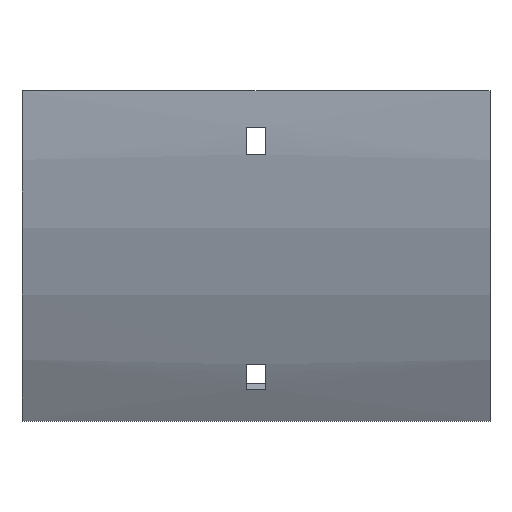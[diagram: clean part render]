
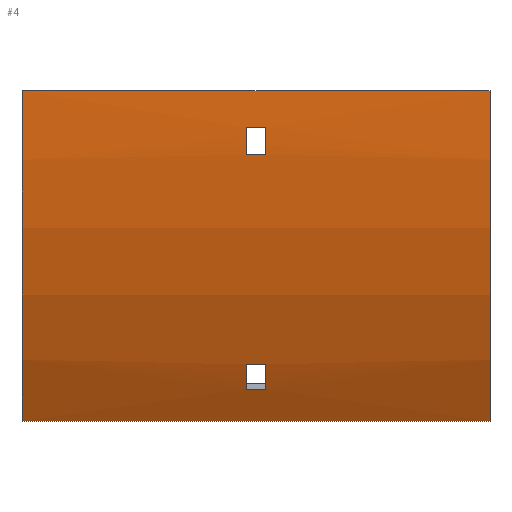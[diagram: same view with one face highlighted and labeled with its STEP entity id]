
A CAD part, front view. The second image highlights one B-rep face of the part: STEP entity #4.
In plain terms, the highlighted cylindrical face has radius 217.5 mm (diameter 435 mm), a partial arc.
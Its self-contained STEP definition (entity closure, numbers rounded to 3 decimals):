
#4 = ADVANCED_FACE ( 'NONE', ( #366, #1395, #237 ), #498, .T. ) ;
#16 = LINE ( 'NONE', #658, #172 ) ;
#43 = DIRECTION ( 'NONE',  ( 0., 0., -1. ) ) ;
#47 = ORIENTED_EDGE ( 'NONE', *, *, #298, .T. ) ;
#112 = ORIENTED_EDGE ( 'NONE', *, *, #941, .T. ) ;
#129 = CARTESIAN_POINT ( 'NONE',  ( 3.25, -116.484, -21. ) ) ;
#131 = ORIENTED_EDGE ( 'NONE', *, *, #1462, .F. ) ;
#154 = DIRECTION ( 'NONE',  ( 1., 0., 0. ) ) ;
#172 = VECTOR ( 'NONE', #1314, 1000. ) ;
#191 = CARTESIAN_POINT ( 'NONE',  ( 77., -117.5, 0. ) ) ;
#203 = VERTEX_POINT ( 'NONE', #1014 ) ;
#230 = CIRCLE ( 'NONE', #1176, 217.5 ) ;
#237 = FACE_BOUND ( 'NONE', #1431, .T. ) ;
#243 = ORIENTED_EDGE ( 'NONE', *, *, #1098, .F. ) ;
#264 = CARTESIAN_POINT ( 'NONE',  ( -3.25, 100., 0. ) ) ;
#298 = EDGE_CURVE ( 'NONE', #1682, #476, #841, .T. ) ;
#299 = DIRECTION ( 'NONE',  ( 0., 0., -1. ) ) ;
#305 = DIRECTION ( 'NONE',  ( 0., 0., 1. ) ) ;
#306 = ORIENTED_EDGE ( 'NONE', *, *, #1586, .F. ) ;
#308 = CARTESIAN_POINT ( 'NONE',  ( 77., 100., 0. ) ) ;
#312 = AXIS2_PLACEMENT_3D ( 'NONE', #1181, #1081, #305 ) ;
#329 = DIRECTION ( 'NONE',  ( 0., 0., 1. ) ) ;
#358 = CARTESIAN_POINT ( 'NONE',  ( -3.25, -117.169, -12. ) ) ;
#366 = FACE_OUTER_BOUND ( 'NONE', #1249, .T. ) ;
#413 = DIRECTION ( 'NONE',  ( 1., 0., 0. ) ) ;
#414 = DIRECTION ( 'NONE',  ( -1., 0., 0. ) ) ;
#418 = DIRECTION ( 'NONE',  ( -1., 0., 0. ) ) ;
#429 = LINE ( 'NONE', #950, #690 ) ;
#470 = ORIENTED_EDGE ( 'NONE', *, *, #589, .F. ) ;
#476 = VERTEX_POINT ( 'NONE', #928 ) ;
#497 = CARTESIAN_POINT ( 'NONE',  ( 3.25, -117.169, -12. ) ) ;
#498 = CYLINDRICAL_SURFACE ( 'NONE', #1628, 217.5 ) ;
#508 = CARTESIAN_POINT ( 'NONE',  ( 77., -117.169, -12. ) ) ;
#539 = EDGE_CURVE ( 'NONE', #1075, #1074, #1212, .T. ) ;
#542 = CARTESIAN_POINT ( 'NONE',  ( -77., 100., 0. ) ) ;
#575 = CIRCLE ( 'NONE', #1522, 217.5 ) ;
#589 = EDGE_CURVE ( 'NONE', #704, #615, #1219, .T. ) ;
#593 = DIRECTION ( 'NONE',  ( -1., 0., 0. ) ) ;
#597 = CARTESIAN_POINT ( 'NONE',  ( -3.25, -94.074, -98.192 ) ) ;
#615 = VERTEX_POINT ( 'NONE', #803 ) ;
#622 = CARTESIAN_POINT ( 'NONE',  ( 77., -88.361, -108.75 ) ) ;
#645 = LINE ( 'NONE', #508, #1555 ) ;
#658 = CARTESIAN_POINT ( 'NONE',  ( 77., -94.074, -98.192 ) ) ;
#669 = DIRECTION ( 'NONE',  ( 0., 0., -1. ) ) ;
#690 = VECTOR ( 'NONE', #1463, 1000. ) ;
#700 = CARTESIAN_POINT ( 'NONE',  ( 77., -88.361, -108.75 ) ) ;
#704 = VERTEX_POINT ( 'NONE', #622 ) ;
#712 = DIRECTION ( 'NONE',  ( -1., 0., 0. ) ) ;
#743 = CARTESIAN_POINT ( 'NONE',  ( 3.25, -97.98, -90.055 ) ) ;
#747 = AXIS2_PLACEMENT_3D ( 'NONE', #542, #154, #669 ) ;
#764 = DIRECTION ( 'NONE',  ( 1., 0., 0. ) ) ;
#798 = DIRECTION ( 'NONE',  ( 0., 0., 1. ) ) ;
#803 = CARTESIAN_POINT ( 'NONE',  ( -77., -88.361, -108.75 ) ) ;
#816 = VECTOR ( 'NONE', #418, 1000. ) ;
#829 = DIRECTION ( 'NONE',  ( 1., 0., 0. ) ) ;
#841 = LINE ( 'NONE', #191, #816 ) ;
#875 = EDGE_CURVE ( 'NONE', #203, #1534, #1133, .T. ) ;
#883 = AXIS2_PLACEMENT_3D ( 'NONE', #264, #1563, #1180 ) ;
#922 = EDGE_CURVE ( 'NONE', #1534, #1509, #429, .T. ) ;
#928 = CARTESIAN_POINT ( 'NONE',  ( -77., -117.5, 0. ) ) ;
#941 = EDGE_CURVE ( 'NONE', #476, #615, #1473, .T. ) ;
#950 = CARTESIAN_POINT ( 'NONE',  ( 77., -97.98, -90.055 ) ) ;
#953 = EDGE_CURVE ( 'NONE', #1074, #1246, #230, .T. ) ;
#959 = CARTESIAN_POINT ( 'NONE',  ( 77., -116.484, -21. ) ) ;
#1014 = CARTESIAN_POINT ( 'NONE',  ( 3.25, -94.074, -98.192 ) ) ;
#1020 = CIRCLE ( 'NONE', #1355, 217.5 ) ;
#1025 = ORIENTED_EDGE ( 'NONE', *, *, #953, .T. ) ;
#1027 = CARTESIAN_POINT ( 'NONE',  ( 77., 100., 0. ) ) ;
#1028 = VERTEX_POINT ( 'NONE', #597 ) ;
#1030 = ORIENTED_EDGE ( 'NONE', *, *, #1208, .T. ) ;
#1054 = CARTESIAN_POINT ( 'NONE',  ( 77., -117.5, 0. ) ) ;
#1056 = CARTESIAN_POINT ( 'NONE',  ( -3.25, -116.484, -21. ) ) ;
#1074 = VERTEX_POINT ( 'NONE', #1056 ) ;
#1075 = VERTEX_POINT ( 'NONE', #129 ) ;
#1081 = DIRECTION ( 'NONE',  ( -1., 0., 0. ) ) ;
#1098 = EDGE_CURVE ( 'NONE', #1028, #203, #16, .T. ) ;
#1133 = CIRCLE ( 'NONE', #312, 217.5 ) ;
#1149 = EDGE_LOOP ( 'NONE', ( #1326, #1025, #1030, #1415 ) ) ;
#1176 = AXIS2_PLACEMENT_3D ( 'NONE', #1537, #712, #329 ) ;
#1180 = DIRECTION ( 'NONE',  ( 0., 0., -1. ) ) ;
#1181 = CARTESIAN_POINT ( 'NONE',  ( 3.25, 100., 0. ) ) ;
#1208 = EDGE_CURVE ( 'NONE', #1246, #1230, #645, .T. ) ;
#1212 = LINE ( 'NONE', #959, #1442 ) ;
#1219 = LINE ( 'NONE', #700, #1282 ) ;
#1230 = VERTEX_POINT ( 'NONE', #497 ) ;
#1239 = ORIENTED_EDGE ( 'NONE', *, *, #875, .F. ) ;
#1246 = VERTEX_POINT ( 'NONE', #358 ) ;
#1249 = EDGE_LOOP ( 'NONE', ( #112, #470, #131, #47 ) ) ;
#1282 = VECTOR ( 'NONE', #414, 1000. ) ;
#1299 = CARTESIAN_POINT ( 'NONE',  ( 3.25, 100., 0. ) ) ;
#1314 = DIRECTION ( 'NONE',  ( 1., 0., 0. ) ) ;
#1326 = ORIENTED_EDGE ( 'NONE', *, *, #539, .T. ) ;
#1332 = EDGE_CURVE ( 'NONE', #1230, #1075, #575, .T. ) ;
#1355 = AXIS2_PLACEMENT_3D ( 'NONE', #308, #829, #43 ) ;
#1390 = CIRCLE ( 'NONE', #883, 217.5 ) ;
#1395 = FACE_BOUND ( 'NONE', #1149, .T. ) ;
#1415 = ORIENTED_EDGE ( 'NONE', *, *, #1332, .T. ) ;
#1431 = EDGE_LOOP ( 'NONE', ( #306, #1693, #1239, #243 ) ) ;
#1442 = VECTOR ( 'NONE', #593, 1000. ) ;
#1462 = EDGE_CURVE ( 'NONE', #1682, #704, #1020, .T. ) ;
#1463 = DIRECTION ( 'NONE',  ( -1., 0., 0. ) ) ;
#1473 = CIRCLE ( 'NONE', #747, 217.5 ) ;
#1509 = VERTEX_POINT ( 'NONE', #1677 ) ;
#1522 = AXIS2_PLACEMENT_3D ( 'NONE', #1299, #413, #299 ) ;
#1534 = VERTEX_POINT ( 'NONE', #743 ) ;
#1536 = DIRECTION ( 'NONE',  ( -1., 0., 0. ) ) ;
#1537 = CARTESIAN_POINT ( 'NONE',  ( -3.25, 100., 0. ) ) ;
#1555 = VECTOR ( 'NONE', #764, 1000. ) ;
#1563 = DIRECTION ( 'NONE',  ( 1., 0., 0. ) ) ;
#1586 = EDGE_CURVE ( 'NONE', #1509, #1028, #1390, .T. ) ;
#1628 = AXIS2_PLACEMENT_3D ( 'NONE', #1027, #1536, #798 ) ;
#1677 = CARTESIAN_POINT ( 'NONE',  ( -3.25, -97.98, -90.055 ) ) ;
#1682 = VERTEX_POINT ( 'NONE', #1054 ) ;
#1693 = ORIENTED_EDGE ( 'NONE', *, *, #922, .F. ) ;
